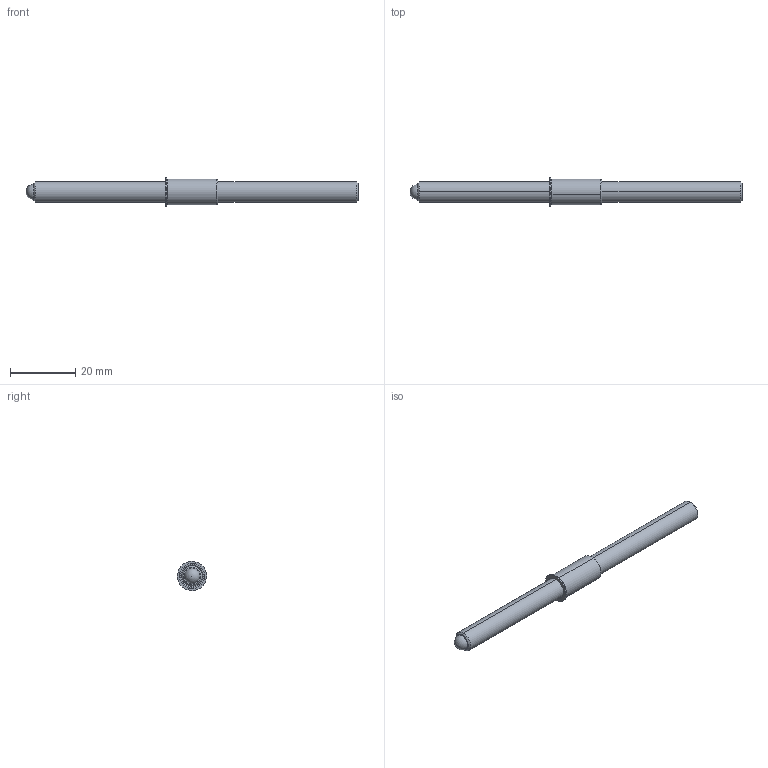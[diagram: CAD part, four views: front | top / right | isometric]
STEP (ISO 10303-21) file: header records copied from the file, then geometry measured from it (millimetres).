
FILE_DESCRIPTION (( 'STEP AP214' ), '1' );
FILE_NAME ('TSB250-80-4000_625-AA.STEP', '2013-03-14T13:19:42', ( 'workpc' ), ( 'Microsoft' ), 'SwSTEP 2.0', 'SolidWorks 2013', '' );
FILE_SCHEMA (( 'AUTOMOTIVE_DESIGN' ));
Length unit declared in the file: inch
Products named in the file (1): TSB250-80-4000_625-AA
Bounding box: 101.6 x 8.94 x 8.94 mm (x, y, z)
Surface area: 2559.5 mm2 (no closed solid volume)
Topology: 0 solids, 3 shells, 33 faces, 77 edges, 49 vertices
Faces by surface type: cone 12, plane 11, cylinder 8, sphere 2
Entity records: 1358 total; most frequent: DIRECTION 174, CARTESIAN_POINT 152, ORIENTED_EDGE 132, EDGE_CURVE 72, AXIS2_PLACEMENT_3D 68, VERTEX_POINT 46, EDGE_LOOP 38, VECTOR 38
